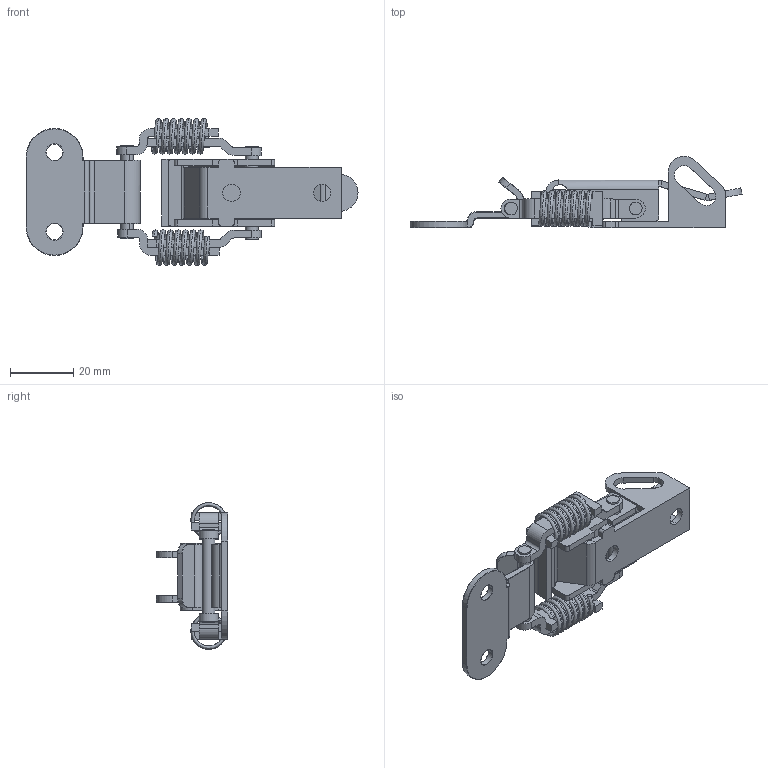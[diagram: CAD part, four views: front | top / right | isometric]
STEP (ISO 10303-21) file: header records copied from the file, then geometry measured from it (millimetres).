
FILE_DESCRIPTION (( 'STEP AP214' ), '1' );
FILE_NAME ('TSL-322P-A.STEP', '2015-09-02T02:23:35', ( '' ), ( '' ), 'SwSTEP 2.0', 'SolidWorks 2010', '' );
FILE_SCHEMA (( 'AUTOMOTIVE_DESIGN' ));
Length unit declared in the file: millimetre
Products named in the file (7): 配件三; 配件二; 配件四; 固定銷; 吊鉤-平面_Default; 配件一; TSL-322P-A
Assembly tree (9 placements, depth 2):
  TSL-322P-A
    吊鉤-平面_Default
    固定銷  x2
    配件二
    配件四  x2
    配件三  x2
    配件一
Bounding box: 104.67 x 22.49 x 46.2 mm (x, y, z)
Volume: 12061 mm3; surface area: 15577.9 mm2
Topology: 11 solids, 11 shells, 313 faces, 783 edges, 491 vertices
Faces by surface type: plane 155, cylinder 121, torus 32, bspline 5
Entity records: 9527 total; most frequent: CARTESIAN_POINT 2728, DIRECTION 1436, ORIENTED_EDGE 1324, EDGE_CURVE 662, AXIS2_PLACEMENT_3D 524, VERTEX_POINT 411, VECTOR 388, LINE 388
